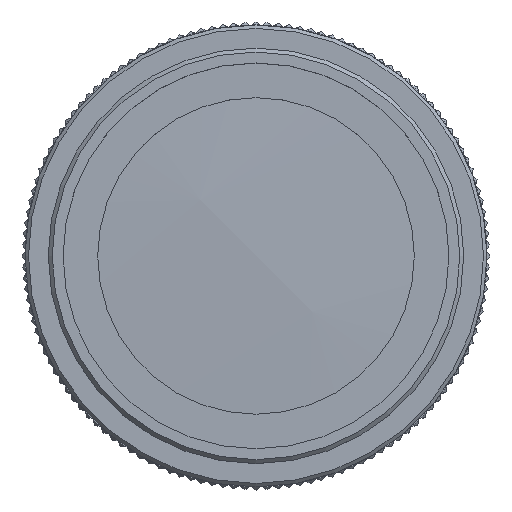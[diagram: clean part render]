
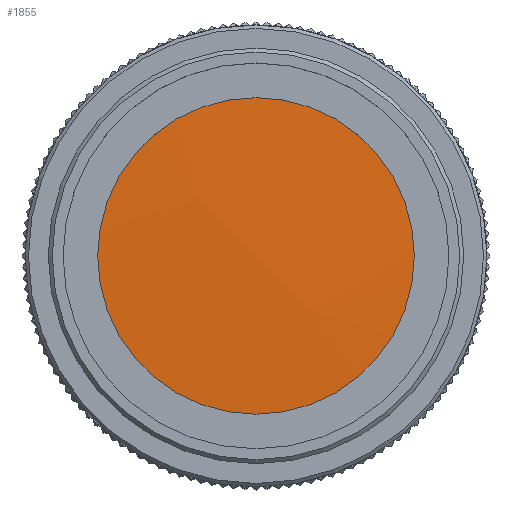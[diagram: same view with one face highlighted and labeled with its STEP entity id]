
A CAD part, top view. The second image highlights one B-rep face of the part: STEP entity #1855.
In plain terms, the highlighted spherical face has radius 250 mm.
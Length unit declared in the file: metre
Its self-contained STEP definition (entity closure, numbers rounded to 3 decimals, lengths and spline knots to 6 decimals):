
#1855=ADVANCED_FACE('398:2885',(#5446),#5447,.T.);
#3023=EDGE_CURVE('399:187',#7350,#7350,#7351,.T.);
#5446=FACE_OUTER_BOUND('',#10524,.T.);
#5447=SPHERICAL_SURFACE('',#10525,0.25);
#7350=VERTEX_POINT('',#12514);
#7351=CIRCLE('',#12515,0.016);
#10524=EDGE_LOOP('',(#17792));
#10525=AXIS2_PLACEMENT_3D('',#17793,#17794,#17795);
#12514=CARTESIAN_POINT('',(-0.016,0.0,0.012457));
#12515=AXIS2_PLACEMENT_3D('',#22378,#22379,#22380);
#17792=ORIENTED_EDGE('',*,*,#3023,.T.);
#17793=CARTESIAN_POINT('',(0.0,0.0,-0.23703));
#17794=DIRECTION('',(-0.69,-0.69,-0.221));
#17795=DIRECTION('',(0.707,-0.707,0.0));
#22378=CARTESIAN_POINT('',(0.0,0.0,0.012457));
#22379=DIRECTION('',(0.0,0.0,1.0));
#22380=DIRECTION('',(-1.0,0.0,0.0));
